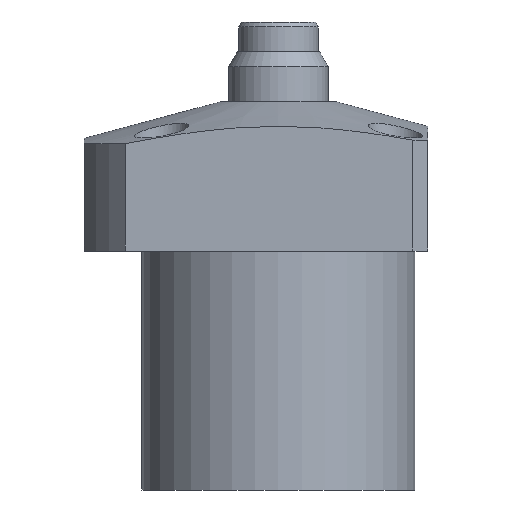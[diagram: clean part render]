
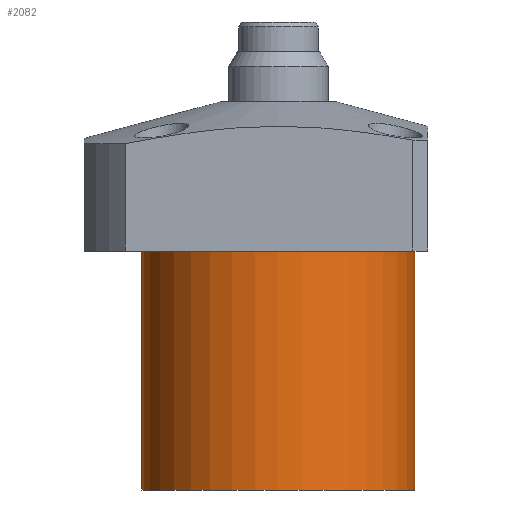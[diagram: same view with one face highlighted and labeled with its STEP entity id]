
A CAD part, front view. The second image highlights one B-rep face of the part: STEP entity #2082.
In plain terms, the highlighted cylindrical face has radius 27.4 mm (diameter 54.8 mm), a partial arc.
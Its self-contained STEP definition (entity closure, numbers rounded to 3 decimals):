
#15 = DIRECTION ( 'NONE',  ( 1., 0., 0. ) ) ;
#95 = EDGE_CURVE ( 'NONE', #1380, #184, #1024, .T. ) ;
#170 = VECTOR ( 'NONE', #1680, 1000. ) ;
#184 = VERTEX_POINT ( 'NONE', #769 ) ;
#234 = CARTESIAN_POINT ( 'NONE',  ( 27.4, 0., 48. ) ) ;
#259 = ORIENTED_EDGE ( 'NONE', *, *, #1926, .F. ) ;
#312 = CARTESIAN_POINT ( 'NONE',  ( -27.4, 0., 48. ) ) ;
#372 = DIRECTION ( 'NONE',  ( 1., 0., 0. ) ) ;
#545 = ORIENTED_EDGE ( 'NONE', *, *, #588, .T. ) ;
#588 = EDGE_CURVE ( 'NONE', #1877, #1650, #1145, .T. ) ;
#719 = CARTESIAN_POINT ( 'NONE',  ( 0., 0., 0. ) ) ;
#769 = CARTESIAN_POINT ( 'NONE',  ( 27.4, 0., 0. ) ) ;
#829 = CIRCLE ( 'NONE', #1684, 27.4 ) ;
#880 = CARTESIAN_POINT ( 'NONE',  ( 0., 0., 48. ) ) ;
#1024 = LINE ( 'NONE', #234, #170 ) ;
#1048 = ORIENTED_EDGE ( 'NONE', *, *, #1305, .T. ) ;
#1067 = CARTESIAN_POINT ( 'NONE',  ( 0., 0., 48. ) ) ;
#1145 = LINE ( 'NONE', #312, #1842 ) ;
#1195 = FACE_OUTER_BOUND ( 'NONE', #1364, .T. ) ;
#1221 = CYLINDRICAL_SURFACE ( 'NONE', #1625, 27.4 ) ;
#1228 = DIRECTION ( 'NONE',  ( 0., 0., 1. ) ) ;
#1305 = EDGE_CURVE ( 'NONE', #1650, #184, #1979, .T. ) ;
#1364 = EDGE_LOOP ( 'NONE', ( #1503, #259, #545, #1048 ) ) ;
#1380 = VERTEX_POINT ( 'NONE', #2089 ) ;
#1384 = CARTESIAN_POINT ( 'NONE',  ( -27.4, 0., 48. ) ) ;
#1391 = DIRECTION ( 'NONE',  ( 0., 0., -1. ) ) ;
#1458 = AXIS2_PLACEMENT_3D ( 'NONE', #719, #1865, #372 ) ;
#1503 = ORIENTED_EDGE ( 'NONE', *, *, #95, .F. ) ;
#1511 = DIRECTION ( 'NONE',  ( -1., 0., 0. ) ) ;
#1625 = AXIS2_PLACEMENT_3D ( 'NONE', #1067, #1391, #1511 ) ;
#1650 = VERTEX_POINT ( 'NONE', #1786 ) ;
#1680 = DIRECTION ( 'NONE',  ( 0., 0., -1. ) ) ;
#1684 = AXIS2_PLACEMENT_3D ( 'NONE', #880, #1228, #15 ) ;
#1786 = CARTESIAN_POINT ( 'NONE',  ( -27.4, 0., 0. ) ) ;
#1808 = DIRECTION ( 'NONE',  ( 0., 0., -1. ) ) ;
#1842 = VECTOR ( 'NONE', #1808, 1000. ) ;
#1865 = DIRECTION ( 'NONE',  ( 0., 0., 1. ) ) ;
#1877 = VERTEX_POINT ( 'NONE', #1384 ) ;
#1926 = EDGE_CURVE ( 'NONE', #1877, #1380, #829, .T. ) ;
#1979 = CIRCLE ( 'NONE', #1458, 27.4 ) ;
#2082 = ADVANCED_FACE ( 'NONE', ( #1195 ), #1221, .T. ) ;
#2089 = CARTESIAN_POINT ( 'NONE',  ( 27.4, 0., 48. ) ) ;
